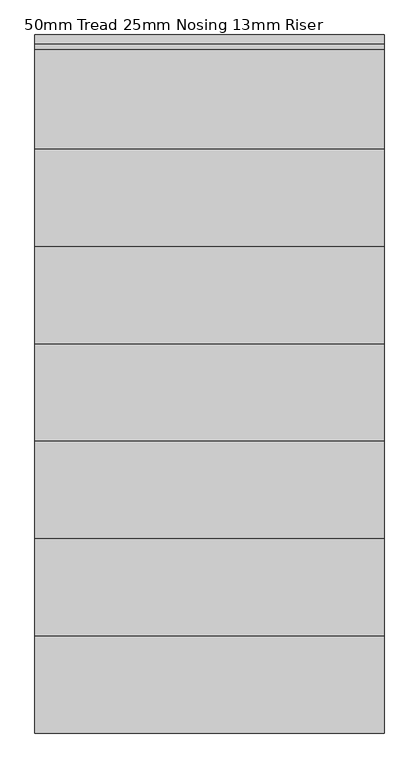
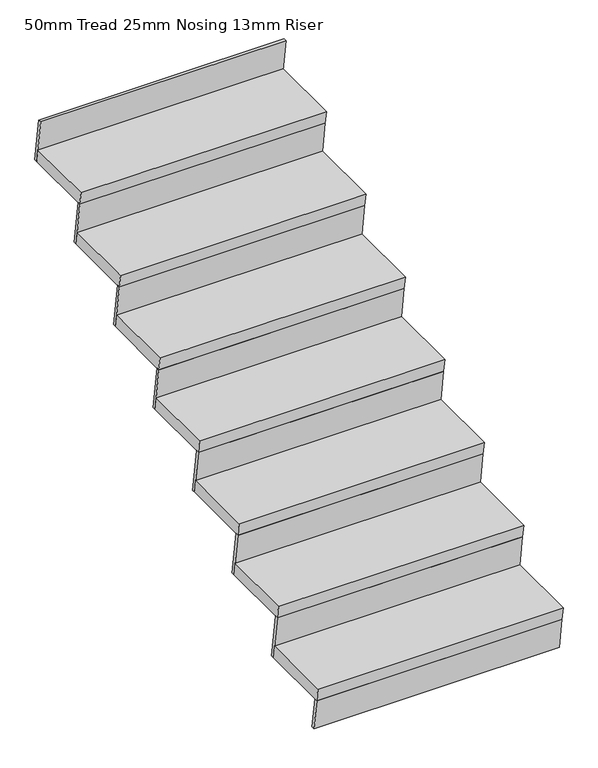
"""IFC4 building model written with IfcOpenShell, lengths in millimetres: stair flight geometry, 50mm Tread 25mm Nosing 13mm Riser."""

from ifc_helpers import new_model, si_unit, frame, origin, place, context, project, spatial, polyline, outline, extrude, source, transform, mapped, element, save


def stair_flight_50mm_tread_25mm_nosing_13mm_riser_cfb7cb60(model_context):
    return source(origin(), model_context, "Body", "SweptSolid", [
        extrude(outline(polyline([(3790.7855405, -1200.15), (4070.7946405, -1200.15), (4078.0853958, -1250.15), (3798.0762958, -1250.15), (3790.7855405, -1200.15)])), frame((11172.1517773, 0.0, 0.0), z_axis=(1.0, 0.0, 0.0), x_axis=(0.0, 1.0, 0.0)), (0.0, 0.0, 1.0), 914.4),
        extrude(outline(polyline([(3798.0762958, -1250.15), (3810.7084847, -1250.15), (3828.4177293, -1371.6), (3815.7855405, -1371.6), (3798.0762958, -1250.15)])), frame((11172.1517773, 0.0, 0.0), z_axis=(1.0, 0.0, 0.0), x_axis=(0.0, 1.0, 0.0)), (0.0, 0.0, 1.0), 914.4),
        extrude(outline(polyline([(4053.0853958, -1078.7), (4065.7175847, -1078.7), (4090.7175847, -1250.15), (4078.0853958, -1250.15), (4053.0853958, -1078.7)])), frame((11172.1517773, 0.0, 0.0), z_axis=(1.0, 0.0, 0.0), x_axis=(0.0, 1.0, 0.0)), (0.0, 0.0, 1.0), 914.4),
        extrude(outline(polyline([(4045.7946405, -1028.7), (4325.8038405, -1028.7), (4333.0945958, -1078.7), (4053.0853958, -1078.7), (4045.7946405, -1028.7)])), frame((11172.1517773, 0.0, 0.0), z_axis=(1.0, 0.0, 0.0), x_axis=(0.0, 1.0, 0.0)), (0.0, 0.0, 1.0), 914.4),
        extrude(outline(polyline([(4308.0945958, -907.25), (4320.7267847, -907.25), (4345.7267847, -1078.7), (4333.0945958, -1078.7), (4308.0945958, -907.25)])), frame((11172.1517773, 0.0, 0.0), z_axis=(1.0, 0.0, 0.0), x_axis=(0.0, 1.0, 0.0)), (0.0, 0.0, 1.0), 914.4),
        extrude(outline(polyline([(4300.8038405, -857.25), (4580.8130405, -857.25), (4588.1037958, -907.25), (4308.0945958, -907.25), (4300.8038405, -857.25)])), frame((11172.1517773, 0.0, 0.0), z_axis=(1.0, 0.0, 0.0), x_axis=(0.0, 1.0, 0.0)), (0.0, 0.0, 1.0), 914.4),
        extrude(outline(polyline([(4563.1037958, -735.8), (4575.7359847, -735.8), (4600.7359847, -907.25), (4588.1037958, -907.25), (4563.1037958, -735.8)])), frame((11172.1517773, 0.0, 0.0), z_axis=(1.0, 0.0, 0.0), x_axis=(0.0, 1.0, 0.0)), (0.0, 0.0, 1.0), 914.4),
        extrude(outline(polyline([(4555.8130405, -685.8), (4835.8221405, -685.8), (4843.1128958, -735.8), (4563.1037958, -735.8), (4555.8130405, -685.8)])), frame((11172.1517773, 0.0, 0.0), z_axis=(1.0, 0.0, 0.0), x_axis=(0.0, 1.0, 0.0)), (0.0, 0.0, 1.0), 914.4),
        extrude(outline(polyline([(4818.1128958, -564.35), (4830.7450847, -564.35), (4855.7450847, -735.8), (4843.1128958, -735.8), (4818.1128958, -564.35)])), frame((11172.1517773, 0.0, 0.0), z_axis=(1.0, 0.0, 0.0), x_axis=(0.0, 1.0, 0.0)), (0.0, 0.0, 1.0), 914.4),
        extrude(outline(polyline([(4810.8221405, -514.35), (5090.8313405, -514.35), (5098.1220958, -564.35), (4818.1128958, -564.35), (4810.8221405, -514.35)])), frame((11172.1517773, 0.0, 0.0), z_axis=(1.0, 0.0, 0.0), x_axis=(0.0, 1.0, 0.0)), (0.0, 0.0, 1.0), 914.4),
        extrude(outline(polyline([(5073.1220958, -392.9), (5085.7542847, -392.9), (5110.7542847, -564.35), (5098.1220958, -564.35), (5073.1220958, -392.9)])), frame((11172.1517773, 0.0, 0.0), z_axis=(1.0, 0.0, 0.0), x_axis=(0.0, 1.0, 0.0)), (0.0, 0.0, 1.0), 914.4),
        extrude(outline(polyline([(5065.8313405, -342.9), (5345.8405405, -342.9), (5353.1312958, -392.9), (5073.1220958, -392.9), (5065.8313405, -342.9)])), frame((11172.1517773, 0.0, 0.0), z_axis=(1.0, 0.0, 0.0), x_axis=(0.0, 1.0, 0.0)), (0.0, 0.0, 1.0), 914.4),
        extrude(outline(polyline([(5328.1312958, -221.45), (5340.7634847, -221.45), (5365.7634847, -392.9), (5353.1312958, -392.9), (5328.1312958, -221.45)])), frame((11172.1517773, 0.0, 0.0), z_axis=(1.0, 0.0, 0.0), x_axis=(0.0, 1.0, 0.0)), (0.0, 0.0, 1.0), 914.4),
        extrude(outline(polyline([(5320.8405405, -171.45), (5599.0409405, -171.45), (5606.3316958, -221.45), (5328.1312958, -221.45), (5320.8405405, -171.45)])), frame((11172.1517773, 0.0, 0.0), z_axis=(1.0, 0.0, 0.0), x_axis=(0.0, 1.0, 0.0)), (0.0, 0.0, 1.0), 914.4),
        extrude(outline(polyline([(5581.3316958, -50.0), (5593.9638847, -50.0), (5618.9638847, -221.45), (5606.3316958, -221.45), (5581.3316958, -50.0)])), frame((11172.1517773, 0.0, 0.0), z_axis=(1.0, 0.0, 0.0), x_axis=(0.0, 1.0, 0.0)), (0.0, 0.0, 1.0), 914.4),
    ])


if __name__ == "__main__":
    model = new_model("IFC4")
    model_context = context("Model", 3, world=origin())
    ifc_project = project(units=[si_unit("LENGTHUNIT", "METRE", prefix="MILLI")], contexts=[model_context])
    site = spatial("IfcSite", under=ifc_project)
    building = spatial("IfcBuilding", under=site)
    placement = place(None, origin())
    stair_flight_50mm_tread_25mm_nosing_13mm_riser_shape = stair_flight_50mm_tread_25mm_nosing_13mm_riser_cfb7cb60(model_context)
    element("IfcStairFlight", 1, ObjectType="50mm Tread 25mm Nosing 13mm Riser", at=placement, inside=building, context=model_context, shape_type="MappedRepresentation", body=[
        mapped(stair_flight_50mm_tread_25mm_nosing_13mm_riser_shape, transform((0.0, 0.0, 0.0), x_axis=(1.0, 0.0, 0.0), y_axis=(0.0, 1.0, 0.0), z_axis=(0.0, 0.0, 1.0))),
    ])
    save(model, "model.ifc")
